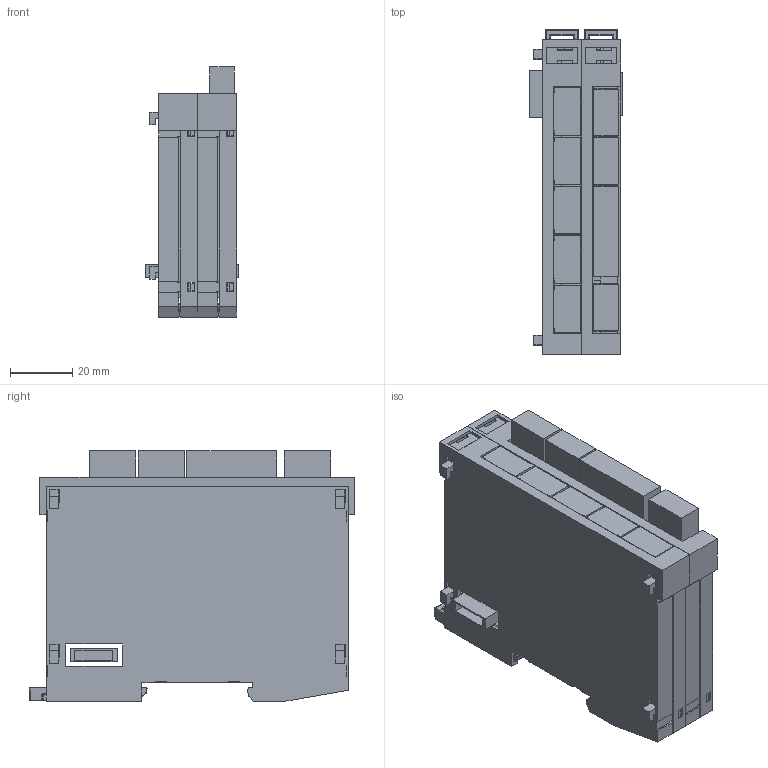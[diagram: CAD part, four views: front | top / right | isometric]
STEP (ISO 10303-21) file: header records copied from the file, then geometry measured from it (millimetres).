
FILE_DESCRIPTION (( 'STEP AP214' ), '1' );
FILE_NAME ('ST151 support.STEP', '2017-11-02T08:54:02', ( 'SIGMATEK GmbH & Co KG' ), ( 'SIGMATEK GmbH & Co KG' ), 'SwSTEP 2.0', 'SolidWorks 2017', '' );
FILE_SCHEMA (( 'AUTOMOTIVE_DESIGN' ));
Length unit declared in the file: millimetre
Products named in the file (14): ST151 support; LP_ST151; Dummy_______________8pol Buchse; Dummy_4110260022 8pol.Federkraftstecker 1reih. 1952322; Dummy_4110262104 4pol.Federkraftstecker f.2reih 1952283; Dummy_4110251205 4pol.Minicombicon-Grundgehäuse RM3,5 1937512; Dummy_4080225346 Erni Stift; Dummy_4080225345 Erni Buchse; Steckerabdeckung_Var 9; S-Dias Rasthaken 20130313; S-Dias Zwischenstück Doppelmodul; Schieber_f Suport; S-Dias Schale rechts_f Suport; S-Dias Schale links_f Suport
Assembly tree (23 placements, depth 3):
  ST151 support
    S-Dias Schale links_f Suport
    S-Dias Schale rechts_f Suport
    Schieber_f Suport  x2
    S-Dias Zwischenstück Doppelmodul
    S-Dias Rasthaken 20130313  x2
    Steckerabdeckung_Var 9  x5
    LP_ST151
      Dummy_4080225345 Erni Buchse
      Dummy_4080225346 Erni Stift
      Dummy_4110251205 4pol.Minicombicon-Grundgehäuse RM3,5 1937512  x3
      Dummy_4110262104 4pol.Federkraftstecker f.2reih 1952283  x3
      Dummy_4110260022 8pol.Federkraftstecker 1reih. 1952322
      Dummy_______________8pol Buchse
Bounding box: 29.55 x 104.19 x 80.15 mm (x, y, z)
Volume: 44736.1 mm3; surface area: 64283 mm2
Topology: 23 solids, 23 shells, 1732 faces, 5036 edges, 3338 vertices
Faces by surface type: plane 1237, cylinder 275, bspline 110, cone 54, torus 30, sphere 26
Entity records: 46105 total; most frequent: CARTESIAN_POINT 9360, ORIENTED_EDGE 6538, DIRECTION 5334, EDGE_CURVE 3269, VECTOR 2514, LINE 2514, VERTEX_POINT 2161, AXIS2_PLACEMENT_3D 1410
